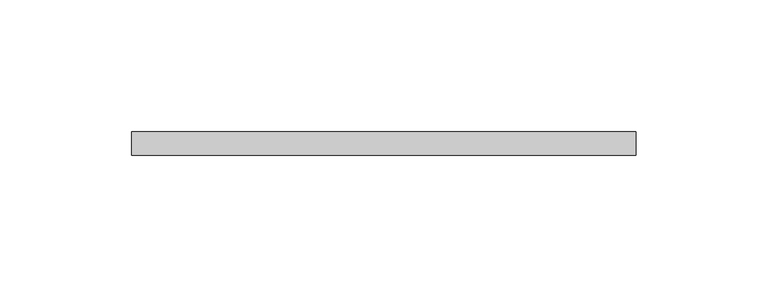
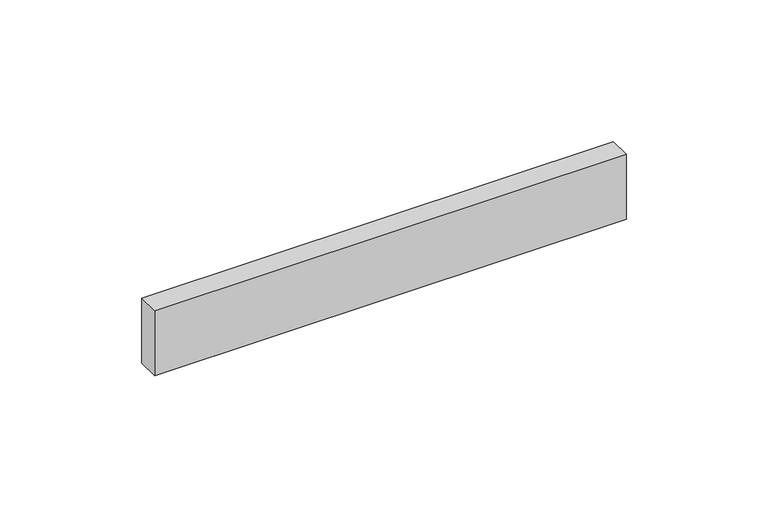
"""IFC4 building model written with IfcOpenShell, lengths in millimetres: proxy geometry, HAFELE 102.12.004-7_5 INCH."""

import ifcopenshell
import ifcopenshell.guid

model = None  # the IFC model being written
_history = None  # IfcOwnerHistory: only IFC2X3 demands one
_inside = {}  # id of a spatial element -> (the spatial element, [elements in it])
_under = {}  # id of a project, library or spatial element -> (it, [spatial elements below it])
_declared = {}  # id of a project -> (the project, [libraries it declares])
_typed = {}  # id of a type object -> (the type object, [elements of that type])
_made_of = {}  # id of a material, layer set ... -> (it, [elements and type objects made of it])


def new_model(schema):
    """Start an empty IFC model of exactly this schema.

    Asked for "IFC4X3", IfcOpenShell would pick the latest addendum, in which some entities
    have other attributes; the version numbers below select the first issue.
    IFC2X3 requires an IfcOwnerHistory on every rooted entity: one is made here for all.
    """
    global model, _history
    if schema == "IFC4X3":
        model = ifcopenshell.file(schema_version=(4, 3, 0, 0))
    else:
        model = ifcopenshell.file(schema=schema)
    _inside.clear()
    _under.clear()
    _declared.clear()
    _typed.clear()
    _made_of.clear()
    _history = None
    if model.schema == "IFC2X3":
        org = make("IfcOrganization", Name="unknown")
        user = make(
            "IfcPersonAndOrganization",
            ThePerson=make("IfcPerson", FamilyName="unknown"),
            TheOrganization=org,
        )
        app = make(
            "IfcApplication",
            ApplicationDeveloper=org,
            Version="unknown",
            ApplicationFullName="unknown",
            ApplicationIdentifier="unknown",
        )
        _history = make(
            "IfcOwnerHistory",
            OwningUser=user,
            OwningApplication=app,
            ChangeAction="ADDED",
            CreationDate=0,
        )
    return model


def make(cls, **values):
    """One entity of the class cls with the attributes given. An attribute that is None is left unset."""
    return model.create_entity(
        cls, **{name: value for name, value in values.items() if value is not None}
    )


def rooted(cls, **values):
    """An entity with a GlobalId (a new one), such as an element, a storey or a relation."""
    return make(cls, GlobalId=ifcopenshell.guid.new(), OwnerHistory=_history, **values)


def si_unit(unit_type, name, prefix=None):
    """IfcSIUnit, for example si_unit("LENGTHUNIT", "METRE", prefix="MILLI")."""
    return make("IfcSIUnit", UnitType=unit_type, Prefix=prefix, Name=name)


def assignment(units):
    """IfcUnitAssignment: the units of a project."""
    return None if units is None else make("IfcUnitAssignment", Units=units)


def point(xyz):
    """IfcCartesianPoint."""
    return None if xyz is None else make("IfcCartesianPoint", Coordinates=xyz)


def direction(xyz):
    """IfcDirection."""
    return None if xyz is None else make("IfcDirection", DirectionRatios=xyz)


def frame(location, z_axis=None, x_axis=None):
    """IfcAxis2Placement3D, a coordinate frame: its origin and axes. An axis left out is left unset."""
    return make(
        "IfcAxis2Placement3D",
        Location=point(location),
        Axis=direction(z_axis),
        RefDirection=direction(x_axis),
    )


def origin():
    """The frame at (0, 0, 0) with its axes left unset."""
    return frame((0.0, 0.0, 0.0))


def place(relative_to, where):
    """IfcLocalPlacement: puts the frame where relative to a parent placement (None: the world)."""
    return make(
        "IfcLocalPlacement", PlacementRelTo=relative_to, RelativePlacement=where
    )


def context(
    kind, dimensions, precision=None, world=None, true_north=None, identifier=None
):
    """IfcGeometricRepresentationContext, for example the 3D "Model" context."""
    return make(
        "IfcGeometricRepresentationContext",
        ContextIdentifier=identifier,
        ContextType=kind,
        CoordinateSpaceDimension=dimensions,
        Precision=precision,
        WorldCoordinateSystem=world,
        TrueNorth=true_north,
    )


def project(units=None, contexts=None):
    """IfcProject with its units and contexts."""
    return rooted(
        "IfcProject",
        Name="project",
        RepresentationContexts=contexts,
        UnitsInContext=assignment(units),
    )


def spatial(cls, under=None, at=None, **own):
    """A site, building, storey or space (cls), placed at a placement, below another one or the project."""
    s = rooted(cls, ObjectPlacement=at, **own)
    if under is not None:
        _under.setdefault(under.id(), (under, []))[1].append(s)
    return s


def polyline(points):
    """IfcPolyline through the points."""
    return make("IfcPolyline", Points=[point(p) for p in points])


def outline(outer, holes=None, kind="AREA"):
    """IfcArbitraryClosedProfileDef: a profile drawn as a closed curve; with holes, ...WithVoids."""
    if holes is None:
        return make("IfcArbitraryClosedProfileDef", ProfileType=kind, OuterCurve=outer)
    return make(
        "IfcArbitraryProfileDefWithVoids",
        ProfileType=kind,
        OuterCurve=outer,
        InnerCurves=holes,
    )


def extrude(swept, where, along, depth):
    """IfcExtrudedAreaSolid: the profile swept, set in the frame where, extruded along a direction by depth."""
    return make(
        "IfcExtrudedAreaSolid",
        SweptArea=swept,
        Position=where,
        ExtrudedDirection=direction(along),
        Depth=depth,
    )


def shape(context_of_items, identifier, shape_type, items):
    """IfcShapeRepresentation: the items that make up one representation, for example the "Body"."""
    return make(
        "IfcShapeRepresentation",
        ContextOfItems=context_of_items,
        RepresentationIdentifier=identifier,
        RepresentationType=shape_type,
        Items=items,
    )


def source(mapping_origin, context_of_items, identifier, shape_type, items):
    """IfcRepresentationMap: a shape defined once, which mapped items show again and again."""
    return make(
        "IfcRepresentationMap",
        MappingOrigin=mapping_origin,
        MappedRepresentation=shape(context_of_items, identifier, shape_type, items),
    )


def transform(
    local_origin,
    x_axis=None,
    y_axis=None,
    z_axis=None,
    scale=None,
    scale2=None,
    scale3=None,
    uniform=True,
):
    """IfcCartesianTransformationOperator3D, or its non-uniform kind. x_axis, y_axis, z_axis: its Axis1, 2, 3."""
    if uniform:
        return make(
            "IfcCartesianTransformationOperator3D",
            Axis1=direction(x_axis),
            Axis2=direction(y_axis),
            LocalOrigin=point(local_origin),
            Scale=scale,
            Axis3=direction(z_axis),
        )
    return make(
        "IfcCartesianTransformationOperator3DnonUniform",
        Axis1=direction(x_axis),
        Axis2=direction(y_axis),
        LocalOrigin=point(local_origin),
        Scale=scale,
        Axis3=direction(z_axis),
        Scale2=scale2,
        Scale3=scale3,
    )


def mapped(mapping_source, mapping_target):
    """IfcMappedItem: shows the shape of a source again, moved by a transform."""
    return make(
        "IfcMappedItem", MappingSource=mapping_source, MappingTarget=mapping_target
    )


def made_of(thing, what):
    """Note that an element or type object is made of a material, layer set ...; save() writes the relation."""
    if what is not None:
        _made_of.setdefault(what.id(), (what, []))[1].append(thing)
    return thing


def element(
    cls,
    number,
    at=None,
    inside=None,
    cuts=None,
    type_object=None,
    material=None,
    context=None,
    identifier="Body",
    shape_type=None,
    held_by="IfcProductDefinitionShape",
    body=None,
    shapes=None,
    **own,
):
    """One element of the class cls, such as IfcWall. Its Tag is "e" and its number.

    at: its placement. inside: the storey or other place that contains it. cuts: it is an
    opening in that element (IfcRelVoidsElement). A single representation is given by context,
    identifier, shape_type and body (its items); several are given by shapes. held_by: the class
    of the entity that holds the representations. save() writes the other relations.
    """
    e = rooted(cls, Tag="e%d" % number, ObjectPlacement=at, **own)
    if body is not None:
        shapes = [shape(context, identifier, shape_type, body)]
    if shapes is not None:
        e.Representation = make(held_by, Representations=shapes)
    if inside is not None:
        _inside.setdefault(inside.id(), (inside, []))[1].append(e)
    if cuts is not None:
        rooted(
            "IfcRelVoidsElement", RelatingBuildingElement=cuts, RelatedOpeningElement=e
        )
    if type_object is not None:
        _typed.setdefault(type_object.id(), (type_object, []))[1].append(e)
    return made_of(e, material)


def aggregate(whole, parts):
    """IfcRelAggregates: a whole, such as a stair, and the parts it consists of."""
    return rooted("IfcRelAggregates", RelatingObject=whole, RelatedObjects=parts)


def save(model, path):
    """Write the relations noted so far, then the file.

    IfcRelAggregates (storeys below a building ...), IfcRelContainedInSpatialStructure (elements
    in a storey), IfcRelDefinesByType, IfcRelAssociatesMaterial and IfcRelDeclares: one each for
    every whole, place, type object, material and project.
    """
    for whole, parts in _under.values():
        aggregate(whole, parts)
    for where, things in _inside.values():
        rooted(
            "IfcRelContainedInSpatialStructure",
            RelatedElements=things,
            RelatingStructure=where,
        )
    for kind, things in _typed.values():
        rooted("IfcRelDefinesByType", RelatedObjects=things, RelatingType=kind)
    for what, things in _made_of.values():
        rooted("IfcRelAssociatesMaterial", RelatedObjects=things, RelatingMaterial=what)
    for by, libraries in _declared.values():
        rooted("IfcRelDeclares", RelatingContext=by, RelatedDefinitions=libraries)
    model.write(path)


def generic_models_16f8150b(model_context):
    return source(origin(), model_context, "Body", "SweptSolid", [
        extrude(outline(polyline([(234.6325, 0.0), (42.8625, 0.0), (42.8625, 8.89), (234.6325, 8.89), (234.6325, 0.0)])), frame((0.0, 0.0, 25.4), z_axis=(0.0, 0.0, 1.0), x_axis=(1.0, 0.0, 0.0)), (0.0, 0.0, 1.0), 27.94),
    ])


if __name__ == "__main__":
    model = new_model("IFC4")
    model_context = context("Model", 3, world=origin())
    ifc_project = project(units=[si_unit("LENGTHUNIT", "METRE", prefix="MILLI")], contexts=[model_context])
    site = spatial("IfcSite", under=ifc_project)
    building = spatial("IfcBuilding", under=site)
    placement = place(None, origin())
    generic_models_shape = generic_models_16f8150b(model_context)
    element("IfcBuildingElementProxy", 1, Name="HAFELE 102.12.004-7_5 INCH", ObjectType="HAFELE 102.12.004-7_5 INCH", at=placement, inside=building, context=model_context, shape_type="MappedRepresentation", body=[
        mapped(generic_models_shape, transform((0.0, 0.0, 0.0), x_axis=(1.0, 0.0, 0.0), y_axis=(0.0, 1.0, 0.0), z_axis=(0.0, 0.0, 1.0))),
    ])
    save(model, "model.ifc")
